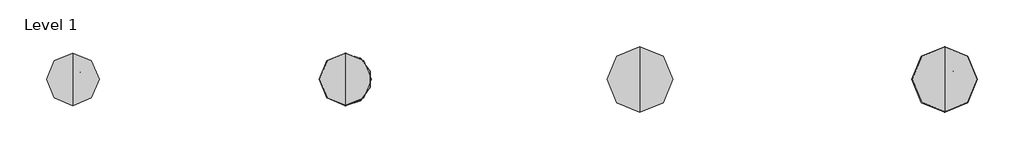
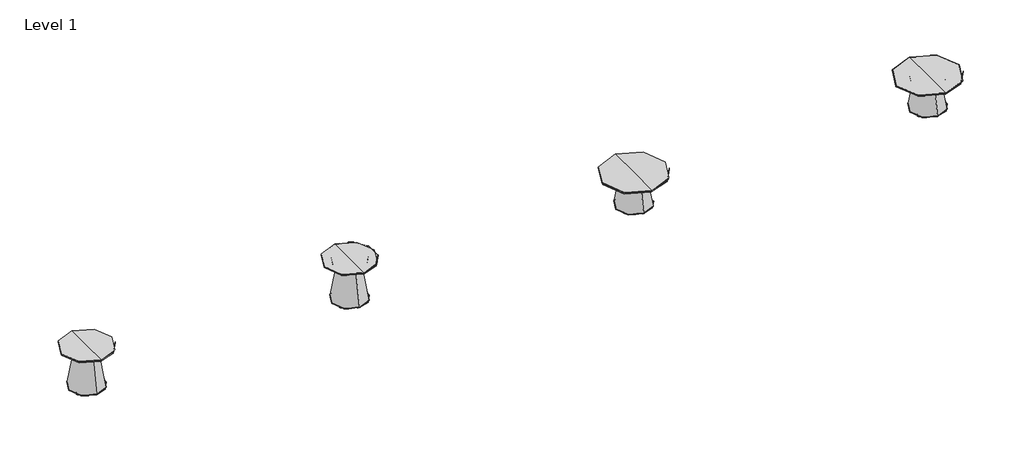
# One storey: 4 furniture elements.
"""IFC4 building model written with IfcOpenShell, lengths in millimetres."""

from ifc_helpers import new_model, si_unit, origin, place, context, project, spatial, transform, mapped, element, save
from components import furniture_844338b3, furniture_b3eed9f7, vit24d20_l_556a0411, vit30d16_l_2d9a9160

model = new_model("IFC4")

# Units and contexts
model_context = context("Model", 3, world=origin())
ifc_project = project(units=[si_unit("LENGTHUNIT", "METRE", prefix="MILLI")], contexts=[model_context])

# Site, building, storey
site = spatial("IfcSite", under=ifc_project)
building = spatial("IfcBuilding", under=site)
storey = spatial("IfcBuildingStorey", under=building, Name="Level 1", Elevation=0.0)

# Furniture
placement = place(None, origin())
furniture_shape = furniture_844338b3(model_context)
element("IfcFurniture", 1, ObjectType="Stance_HC-Villa_Tables : VIT24D20-L-S", at=placement, inside=storey, context=model_context, shape_type="MappedRepresentation", body=[
    mapped(furniture_shape, transform((-8266.4309588, 11029.8106058, 0.0), x_axis=(1.0, 0.0, 0.0), y_axis=(0.0, 1.0, 0.0), z_axis=(0.0, 0.0, 1.0))),
])
furniture_2_shape = furniture_b3eed9f7(model_context)
element("IfcFurniture", 2, ObjectType="Stance_HC-Villa_Tables : VIT30D16-L-S", at=placement, inside=storey, context=model_context, shape_type="MappedRepresentation", body=[
    mapped(furniture_2_shape, transform((-1306.5359618, 11029.8106058, 0.0), x_axis=(1.0, 0.0, 0.0), y_axis=(0.0, 1.0, 0.0), z_axis=(0.0, 0.0, 1.0))),
])
vit24d20_l_shape = vit24d20_l_556a0411(model_context)
element("IfcFurniture", 3, ObjectType="Stance_HC-Villa_Tables : VIT24D20-L", at=placement, inside=storey, context=model_context, shape_type="MappedRepresentation", body=[
    mapped(vit24d20_l_shape, transform((-11432.1357066, 11029.8106058, 0.0), x_axis=(1.0, 0.0, 0.0), y_axis=(0.0, 1.0, 0.0), z_axis=(0.0, 0.0, 1.0))),
])
vit30d16_l_shape = vit30d16_l_2d9a9160(model_context)
element("IfcFurniture", 4, ObjectType="Stance_HC-Villa_Tables : VIT30D16-L", at=placement, inside=storey, context=model_context, shape_type="MappedRepresentation", body=[
    mapped(vit30d16_l_shape, transform((-4844.6765623, 11029.8106058, 0.0), x_axis=(1.0, 0.0, 0.0), y_axis=(0.0, 1.0, 0.0), z_axis=(0.0, 0.0, 1.0))),
])

save(model, "model.ifc")
